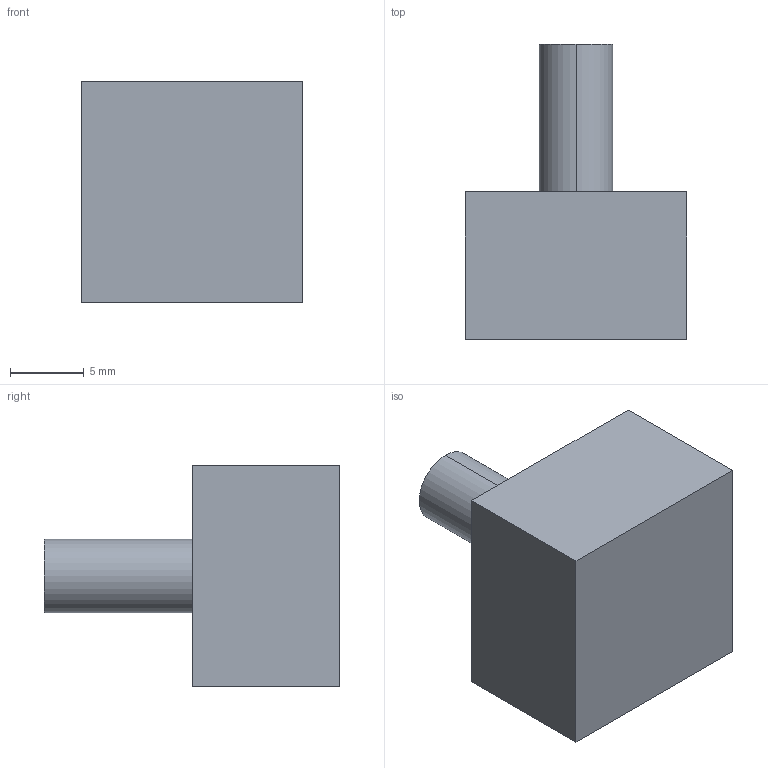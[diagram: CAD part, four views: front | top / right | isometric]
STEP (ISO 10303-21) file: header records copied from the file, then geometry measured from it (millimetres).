
FILE_DESCRIPTION (( 'STEP AP203' ), '1' );
FILE_NAME ('Podstawa_Domyœlna_sldprt.STEP', '2024-04-08T11:03:05', ( '' ), ( '' ), 'SwSTEP 2.0', 'SolidWorks 2024', '' );
FILE_SCHEMA (( 'CONFIG_CONTROL_DESIGN' ));
Length unit declared in the file: millimetre
Products named in the file (1): Podstawa_Domyślna_sldprt
Bounding box: 15 x 20 x 15 mm (x, y, z)
Volume: 2446.3 mm3; surface area: 1207.1 mm2
Topology: 1 solids, 1 shells, 9 faces, 18 edges, 12 vertices
Faces by surface type: plane 7, cylinder 2
Entity records: 313 total; most frequent: DIRECTION 42, CARTESIAN_POINT 40, ORIENTED_EDGE 36, EDGE_CURVE 18, LINE 14, AXIS2_PLACEMENT_3D 14, VECTOR 14, VERTEX_POINT 12
